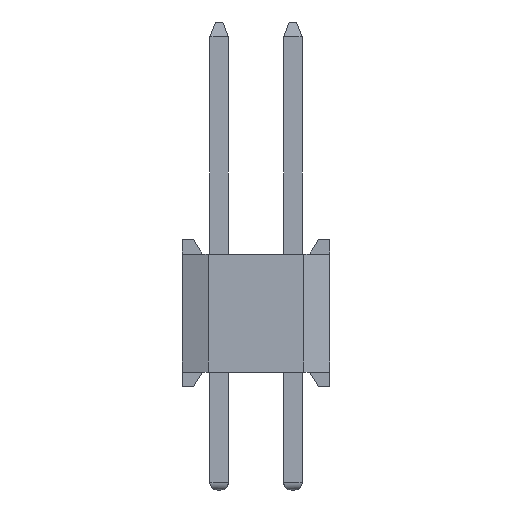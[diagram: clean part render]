
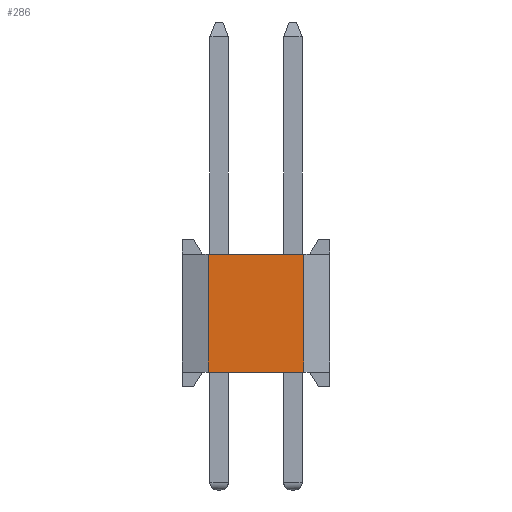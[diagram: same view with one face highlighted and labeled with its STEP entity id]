
A CAD part, left-side view. The second image highlights one B-rep face of the part: STEP entity #286.
In plain terms, the highlighted planar face has unit normal (-1, 0, 0).
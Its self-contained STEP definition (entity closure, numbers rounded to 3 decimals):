
#286=ADVANCED_FACE('',(#1590),#986,.T.);
#986=PLANE('',#12745);
#1590=FACE_OUTER_BOUND('',#2290,.T.);
#2290=EDGE_LOOP('',(#3170,#3171,#3172,#3173));
#3170=ORIENTED_EDGE('',*,*,#7794,.F.);
#3171=ORIENTED_EDGE('',*,*,#7795,.F.);
#3172=ORIENTED_EDGE('',*,*,#7796,.F.);
#3173=ORIENTED_EDGE('',*,*,#7797,.T.);
#6686=VERTEX_POINT('',#17087);
#6687=VERTEX_POINT('',#17088);
#6688=VERTEX_POINT('',#17090);
#6689=VERTEX_POINT('',#17092);
#7794=EDGE_CURVE('',#6686,#6687,#9552,.T.);
#7795=EDGE_CURVE('',#6688,#6686,#9553,.T.);
#7796=EDGE_CURVE('',#6689,#6688,#9554,.T.);
#7797=EDGE_CURVE('',#6689,#6687,#9555,.T.);
#9552=LINE('',#17086,#11214);
#9553=LINE('',#17089,#11215);
#9554=LINE('',#17091,#11216);
#9555=LINE('',#17093,#11217);
#11214=VECTOR('',#13699,1.);
#11215=VECTOR('',#13700,1.);
#11216=VECTOR('',#13701,1.);
#11217=VECTOR('',#13702,1.);
#12745=AXIS2_PLACEMENT_3D('',#17094,#13703,#13704);
#13699=DIRECTION('',(0.,0.,1.));
#13700=DIRECTION('',(0.,1.,0.));
#13701=DIRECTION('',(0.,0.,-1.));
#13702=DIRECTION('',(0.,1.,0.));
#13703=DIRECTION('',(-1.,0.,0.));
#13704=DIRECTION('',(0.,0.,-1.));
#17086=CARTESIAN_POINT('',(0.,3.3,3.2));
#17087=CARTESIAN_POINT('',(0.,3.3,0.));
#17088=CARTESIAN_POINT('',(0.,3.3,3.2));
#17089=CARTESIAN_POINT('',(0.,3.,0.));
#17090=CARTESIAN_POINT('',(0.,0.7,0.));
#17091=CARTESIAN_POINT('',(0.,0.7,0.));
#17092=CARTESIAN_POINT('',(0.,0.7,3.2));
#17093=CARTESIAN_POINT('',(0.,3.,3.2));
#17094=CARTESIAN_POINT('',(0.,3.,3.2));
